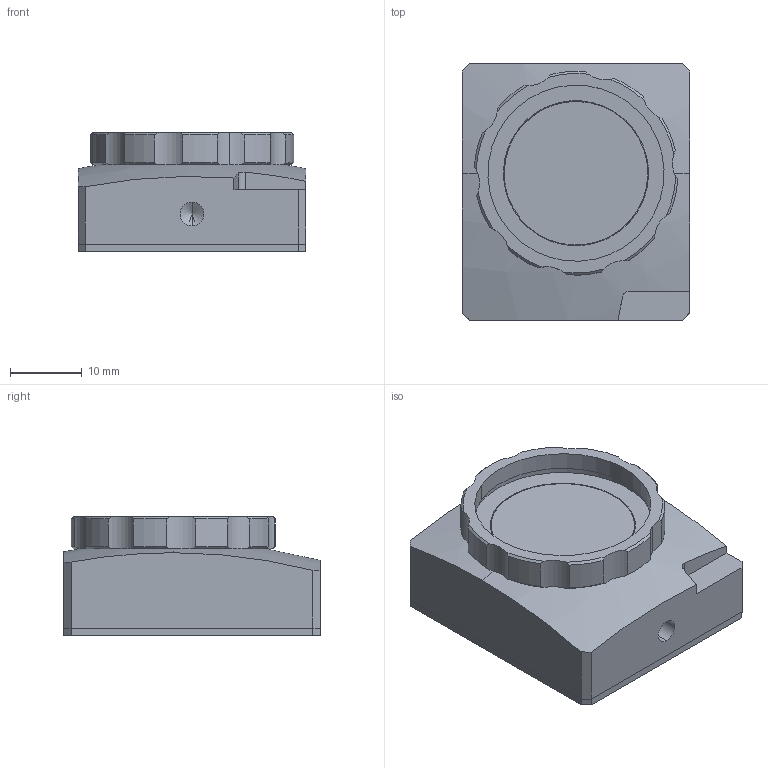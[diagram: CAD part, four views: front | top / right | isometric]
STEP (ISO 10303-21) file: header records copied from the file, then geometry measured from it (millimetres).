
FILE_DESCRIPTION (( 'STEP AP214' ), '1' );
FILE_NAME ('BeamPro micro-I.STEP', '2025-05-14T16:07:33', ( '' ), ( '' ), 'SwSTEP 2.0', 'SolidWorks 2020', '' );
FILE_SCHEMA (( 'AUTOMOTIVE_DESIGN' ));
Length unit declared in the file: millimetre
Products named in the file (7): MBPRO-IDS-BOX-02; ND filter_20x2.0; BPRO-OPT-02_Documentation produit; FHC_FHC-M2-L5 noire; FHC_FHC-M2-L8 noire; BeamPro micro-I; MBPRO-IDS-BOX-01_Int‚rieur masqu‚
Assembly tree (6 placements, depth 2):
  BeamPro micro-I
    MBPRO-IDS-BOX-01_Int‚rieur masqu‚
    MBPRO-IDS-BOX-02
    FHC_FHC-M2-L5 noire
    FHC_FHC-M2-L8 noire
    ND filter_20x2.0
    BPRO-OPT-02_Documentation produit
Bounding box: 31.7 x 35.7 x 16.53 mm (x, y, z)
Volume: 13249.9 mm3; surface area: 9202.1 mm2
Topology: 6 solids, 6 shells, 189 faces, 476 edges, 311 vertices
Faces by surface type: plane 79, cylinder 72, cone 36, sphere 2
Entity records: 6184 total; most frequent: CARTESIAN_POINT 1120, DIRECTION 1013, ORIENTED_EDGE 948, EDGE_CURVE 474, AXIS2_PLACEMENT_3D 386, VERTEX_POINT 311, LINE 241, VECTOR 241
